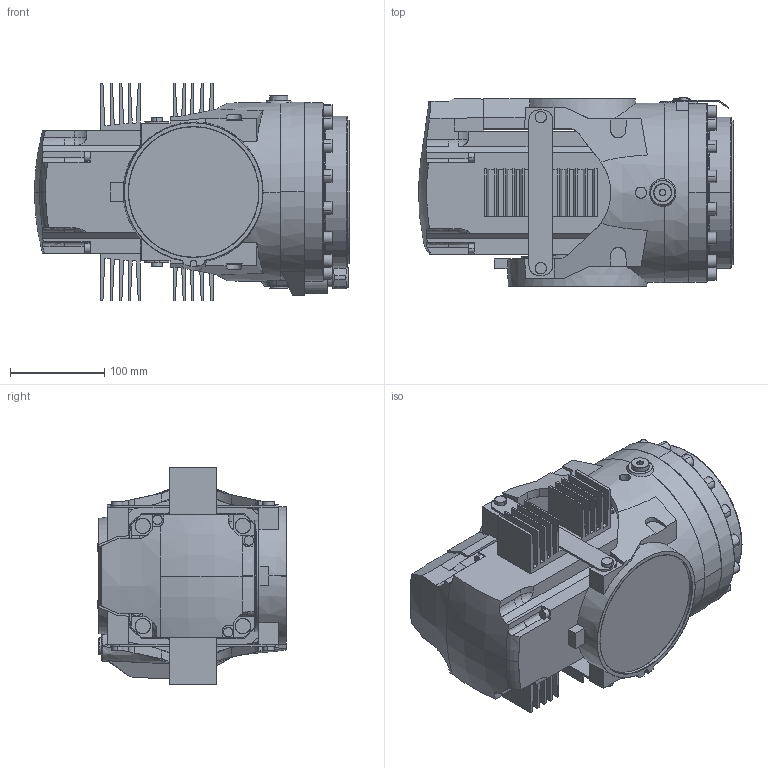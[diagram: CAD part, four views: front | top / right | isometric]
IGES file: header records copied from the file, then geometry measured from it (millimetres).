
Start section: SolidWorks IGES file using analytic representation for surfaces
Global section: file name: C:\Users\SEAMSTO1\OneDrive - ABB\PT\Macro\IGES\IRB6760-MH3_200kg-320_OC_00_IGES_J\IRB6760_All-320_OC_00_LINK05_CAD.igs; native system: SolidWorks 2024; preprocessor: SolidWorks 2024; author: SEAMSTO1; date: 250930.151504; units: millimetre
Bounding box: 333.45 x 199.73 x 230 mm (x, y, z)
Surface area: 509112.7 mm2 (no closed solid volume)
Topology: 0 solids, 0 shells, 752 faces, 10983 edges, 10981 vertices
Faces by surface type: bspline 474, revolution 278
